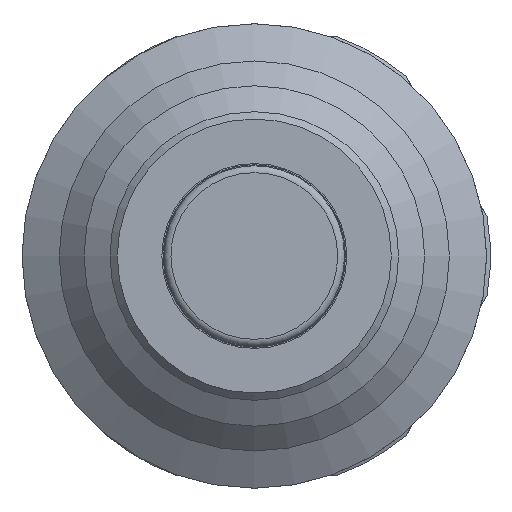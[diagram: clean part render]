
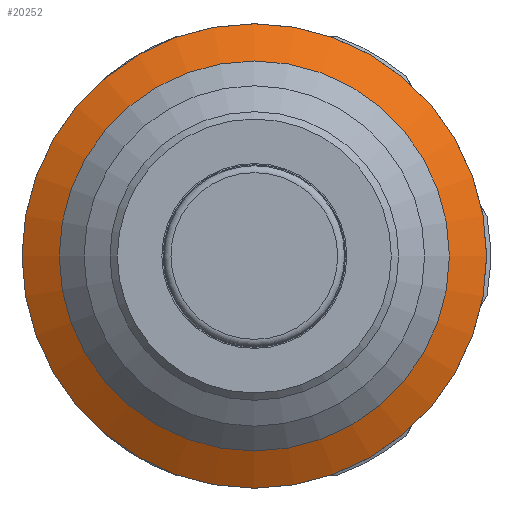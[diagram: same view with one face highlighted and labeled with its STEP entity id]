
A CAD part, front view. The second image highlights one B-rep face of the part: STEP entity #20252.
In plain terms, the highlighted conical face has half-angle 60 degrees and reference radius 14.623 mm.
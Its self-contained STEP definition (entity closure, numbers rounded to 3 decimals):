
#2267=CONICAL_SURFACE('',#21134,14.623,1.047);
#2986=FACE_OUTER_BOUND('',#4074,.T.);
#4074=EDGE_LOOP('',(#15093,#15094,#15095,#15096,#15097));
#4839=CIRCLE('',#21129,13.35);
#4840=CIRCLE('',#21130,13.35);
#4842=CIRCLE('',#21133,15.896);
#5584=LINE('',#34297,#6772);
#6772=VECTOR('',#22615,14.623);
#8332=VERTEX_POINT('',#34286);
#8333=VERTEX_POINT('',#34288);
#8335=VERTEX_POINT('',#34294);
#10783=EDGE_CURVE('',#8333,#8332,#4839,.T.);
#10784=EDGE_CURVE('',#8332,#8333,#4840,.T.);
#10786=EDGE_CURVE('',#8335,#8335,#4842,.T.);
#10787=EDGE_CURVE('',#8333,#8335,#5584,.T.);
#15093=ORIENTED_EDGE('',*,*,#10783,.T.);
#15094=ORIENTED_EDGE('',*,*,#10784,.T.);
#15095=ORIENTED_EDGE('',*,*,#10787,.T.);
#15096=ORIENTED_EDGE('',*,*,#10786,.T.);
#15097=ORIENTED_EDGE('',*,*,#10787,.F.);
#20252=ADVANCED_FACE('',(#2986),#2267,.T.);
#21129=AXIS2_PLACEMENT_3D('',#34289,#22603,#22604);
#21130=AXIS2_PLACEMENT_3D('',#34290,#22605,#22606);
#21133=AXIS2_PLACEMENT_3D('',#34295,#22611,#22612);
#21134=AXIS2_PLACEMENT_3D('',#34296,#22613,#22614);
#22603=DIRECTION('center_axis',(0.,1.,0.));
#22604=DIRECTION('ref_axis',(-1.,0.,0.));
#22605=DIRECTION('center_axis',(0.,1.,0.));
#22606=DIRECTION('ref_axis',(-1.,0.,0.));
#22611=DIRECTION('center_axis',(0.,-1.,0.));
#22612=DIRECTION('ref_axis',(-1.,0.,0.));
#22613=DIRECTION('center_axis',(0.,1.,0.));
#22614=DIRECTION('ref_axis',(-1.,0.,0.));
#22615=DIRECTION('',(0.866,0.5,0.));
#34286=CARTESIAN_POINT('',(-13.35,12.785,0.));
#34288=CARTESIAN_POINT('',(13.35,12.785,0.));
#34289=CARTESIAN_POINT('Origin',(0.,12.785,0.));
#34290=CARTESIAN_POINT('Origin',(0.,12.785,0.));
#34294=CARTESIAN_POINT('',(15.896,14.255,0.));
#34295=CARTESIAN_POINT('Origin',(0.,14.255,0.));
#34296=CARTESIAN_POINT('Origin',(0.,13.52,0.));
#34297=CARTESIAN_POINT('',(14.623,13.52,0.));
